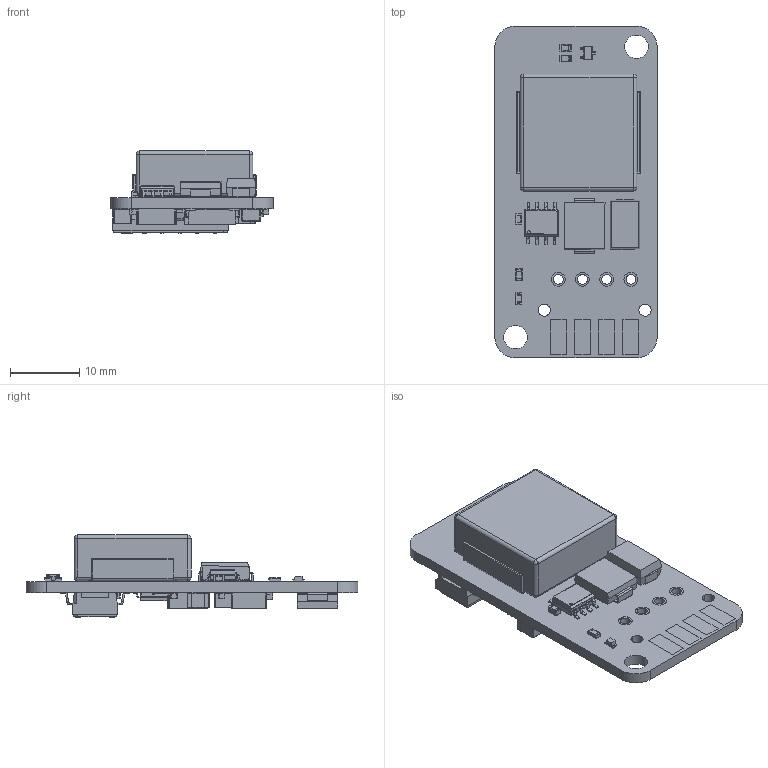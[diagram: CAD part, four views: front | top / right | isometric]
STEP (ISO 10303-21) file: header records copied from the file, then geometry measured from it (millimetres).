
FILE_DESCRIPTION(/* description */ ('','CAx-IF Rec.Pracs.---Representation and Presentation of Product Manufacturing Information (PMI)---4.0---2014-10-13'),/* implementation_level */ '2;1');
FILE_NAME(/* name */ 'C:\Users\jbs3\Downloads\hw_BEC - BASIC.stp',/* time_stamp */ '2023-08-25T12:11:19+02:00',/* author */ ('jbs3'),/* organization */ (''),/* preprocessor_version */ 'ST-DEVELOPER v17',/* originating_system */ 'Autodesk Inventor 2018',/* authorisation */ '');
FILE_SCHEMA (('AP242_MANAGED_MODEL_BASED_3D_ENGINEERING_MIM_LF { 1 0 10303 442 1 1 4 }'));
Products named in the file (1): hw_BEC - BASIC
Bounding box: 23.5 x 48 x 11.87 mm (x, y, z)
Volume: 4598.3 mm3; surface area: 5341.1 mm2
Topology: 44 solids, 44 shells, 2343 faces, 6381 edges, 4053 vertices
Faces by surface type: plane 1523, cylinder 608, sphere 116, bspline 84, torus 12
Full cylindrical faces by diameter (mm): 0.929 x1, 1.4 x4, 2 x8, 3.4 x2
Entity records: 76822 total; most frequent: CARTESIAN_POINT 14797, ORIENTED_EDGE 12530, DIRECTION 12340, EDGE_CURVE 6265, LINE 4552, VECTOR 4552, VERTEX_POINT 4053, AXIS2_PLACEMENT_3D 3898
